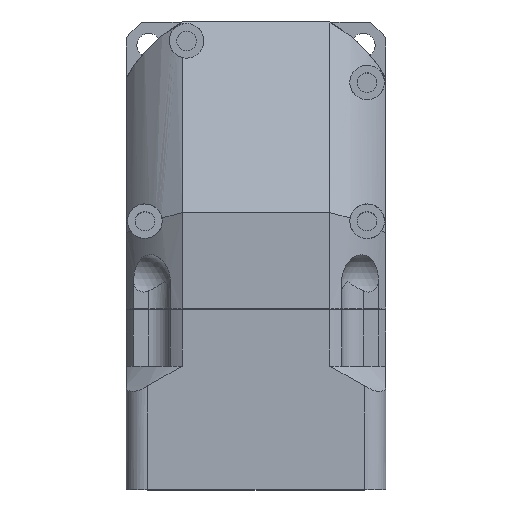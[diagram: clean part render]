
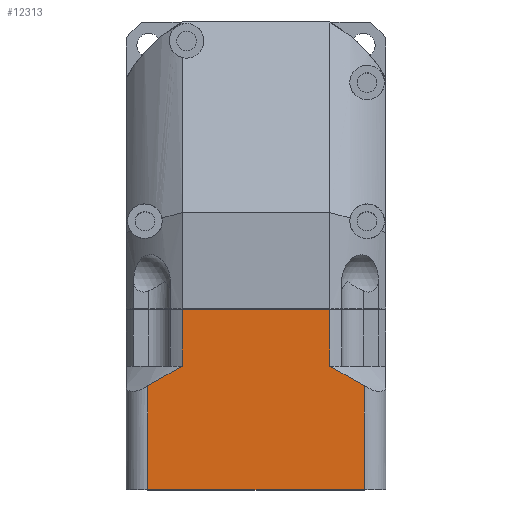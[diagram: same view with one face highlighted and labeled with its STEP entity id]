
A CAD part, top view. The second image highlights one B-rep face of the part: STEP entity #12313.
In plain terms, the highlighted planar face has unit normal (0, 0, 1) as drawn and (0, 0, -1) by its records, which use the part's own axes.
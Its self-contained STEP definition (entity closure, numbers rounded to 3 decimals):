
#10346=DIRECTION('',(-1.,0.,0.));
#10347=VECTOR('',#10346,50.);
#10348=CARTESIAN_POINT('',(25.,41.5,-30.));
#10349=LINE('',#10348,#10347);
#10515=DIRECTION('',(0.,1.,0.));
#10516=VECTOR('',#10515,23.949);
#10517=CARTESIAN_POINT('',(-25.,17.551,-30.));
#10518=LINE('',#10517,#10516);
#10819=DIRECTION('',(-1.,0.,0.));
#10820=VECTOR('',#10819,34.073);
#10821=CARTESIAN_POINT('',(17.037,0.,-30.));
#10822=LINE('',#10821,#10820);
#10833=DIRECTION('',(0.,1.,0.));
#10834=VECTOR('',#10833,13.);
#10835=CARTESIAN_POINT('',(-17.037,0.,-30.));
#10836=LINE('',#10835,#10834);
#11011=DIRECTION('',(0.,1.,0.));
#11012=VECTOR('',#11011,13.);
#11013=CARTESIAN_POINT('',(17.037,0.,-30.));
#11014=LINE('',#11013,#11012);
#11015=CARTESIAN_POINT('',(25.,17.551,-30.));
#11016=CARTESIAN_POINT('',(24.029,16.929,-30.));
#11017=CARTESIAN_POINT('',(22.143,15.765,-30.));
#11018=CARTESIAN_POINT('',(19.513,14.266,-30.));
#11019=CARTESIAN_POINT('',(17.845,13.399,-30.));
#11020=CARTESIAN_POINT('',(17.037,13.,-30.));
#11022=DIRECTION('',(0.,1.,0.));
#11023=VECTOR('',#11022,23.949);
#11024=CARTESIAN_POINT('',(25.,17.551,-30.));
#11025=LINE('',#11024,#11023);
#11026=CARTESIAN_POINT('',(-17.037,13.,-30.));
#11027=CARTESIAN_POINT('',(-17.851,13.402,-30.));
#11028=CARTESIAN_POINT('',(-19.527,14.274,-30.));
#11029=CARTESIAN_POINT('',(-22.154,15.772,-30.));
#11030=CARTESIAN_POINT('',(-24.034,16.933,-30.));
#11031=CARTESIAN_POINT('',(-25.,17.551,-30.));
#11193=CARTESIAN_POINT('',(-17.037,0.,-30.));
#11195=VERTEX_POINT('',#11193);
#11239=CARTESIAN_POINT('',(17.037,0.,-30.));
#11240=VERTEX_POINT('',#11239);
#11253=CARTESIAN_POINT('',(25.,41.5,-30.));
#11254=CARTESIAN_POINT('',(-25.,41.5,-30.));
#11255=VERTEX_POINT('',#11253);
#11256=VERTEX_POINT('',#11254);
#11297=CARTESIAN_POINT('',(-17.037,13.,-30.));
#11298=VERTEX_POINT('',#11297);
#11311=CARTESIAN_POINT('',(17.037,13.,-30.));
#11312=VERTEX_POINT('',#11311);
#11385=VERTEX_POINT('',#11015);
#11386=VERTEX_POINT('',#11031);
#12296=CARTESIAN_POINT('',(17.037,0.,-30.));
#12297=DIRECTION('',(0.,0.,-1.));
#12298=DIRECTION('',(-1.,0.,0.));
#12299=AXIS2_PLACEMENT_3D('',#12296,#12297,#12298);
#12300=PLANE('',#12299);
#12301=ORIENTED_EDGE('',*,*,#12002,.F.);
#12302=ORIENTED_EDGE('',*,*,#11982,.F.);
#12304=ORIENTED_EDGE('',*,*,#12303,.T.);
#12305=ORIENTED_EDGE('',*,*,#11754,.F.);
#12307=ORIENTED_EDGE('',*,*,#12306,.T.);
#12308=ORIENTED_EDGE('',*,*,#11442,.T.);
#12309=ORIENTED_EDGE('',*,*,#11693,.F.);
#12310=ORIENTED_EDGE('',*,*,#11775,.F.);
#12311=EDGE_LOOP('',(#12301,#12302,#12304,#12305,#12307,#12308,#12309,#12310));
#12312=FACE_OUTER_BOUND('',#12311,.F.);
#12313=ADVANCED_FACE('',(#12312),#12300,.T.);
#11021=B_SPLINE_CURVE_WITH_KNOTS('',3,(#11015,#11016,#11017,#11018,#11019,
#11020),.UNSPECIFIED.,.F.,.F.,(4,1,1,4),(0.,0.333,
0.667,1.),.UNSPECIFIED.);
#11032=B_SPLINE_CURVE_WITH_KNOTS('',3,(#11026,#11027,#11028,#11029,#11030,
#11031),.UNSPECIFIED.,.F.,.F.,(4,1,1,4),(0.,0.333,
0.667,1.),.UNSPECIFIED.);
#11442=EDGE_CURVE('',#11255,#11256,#10349,.T.);
#11693=EDGE_CURVE('',#11386,#11256,#10518,.T.);
#11754=EDGE_CURVE('',#11385,#11312,#11021,.T.);
#11775=EDGE_CURVE('',#11298,#11386,#11032,.T.);
#11982=EDGE_CURVE('',#11240,#11195,#10822,.T.);
#12002=EDGE_CURVE('',#11195,#11298,#10836,.T.);
#12303=EDGE_CURVE('',#11240,#11312,#11014,.T.);
#12306=EDGE_CURVE('',#11385,#11255,#11025,.T.);
